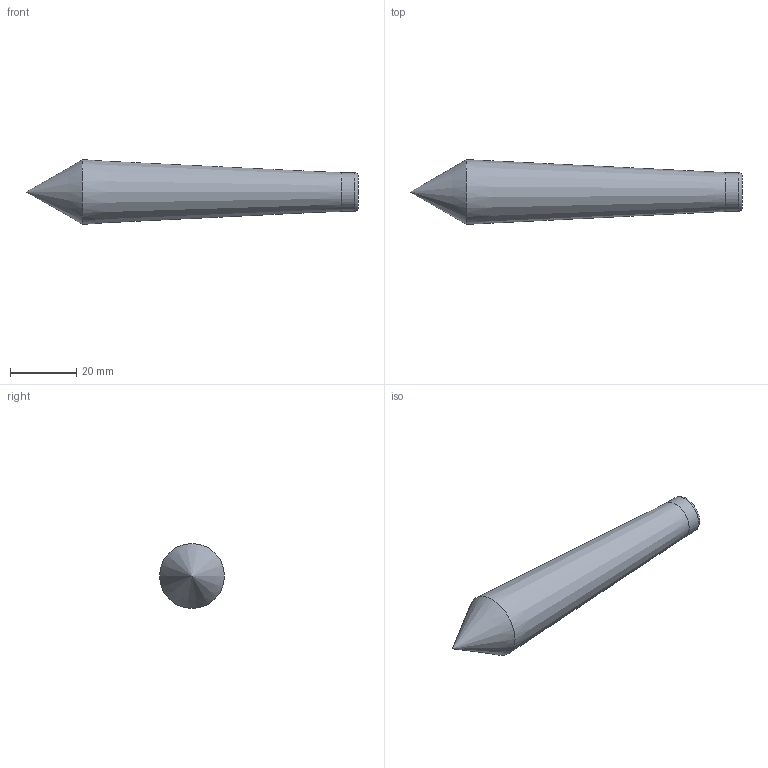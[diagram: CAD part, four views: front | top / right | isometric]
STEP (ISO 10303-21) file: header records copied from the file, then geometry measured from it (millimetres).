
FILE_DESCRIPTION(/* description */ (''),/* implementation_level */ '2;1');
FILE_NAME(/* name */ '',/* time_stamp */ '2024-07-11T13:45:16+09:00',/* author */ ('jhkim'),/* organization */ (''),/* preprocessor_version */ 'ST-DEVELOPER v20',/* originating_system */ 'Autodesk Inventor 2025',/* authorisation */ '');
FILE_SCHEMA (('AUTOMOTIVE_DESIGN { 1 0 10303 214 3 1 1 }'));
Length unit declared in the file: millimetre
Products named in the file (1): 센터
Bounding box: 100 x 19.51 x 19.51 mm (x, y, z)
Volume: 17468.5 mm3; surface area: 4707.6 mm2
Topology: 1 solids, 1 shells, 5 faces, 10 edges, 6 vertices
Faces by surface type: cone 2, cylinder 1, torus 1, plane 1
Full cylindrical faces by diameter (mm): 11.706 x1
Entity records: 172 total; most frequent: DIRECTION 27, CARTESIAN_POINT 21, ORIENTED_EDGE 18, AXIS2_PLACEMENT_3D 12, EDGE_CURVE 9, CIRCLE 6, VERTEX_POINT 6, FACE_OUTER_BOUND 5
